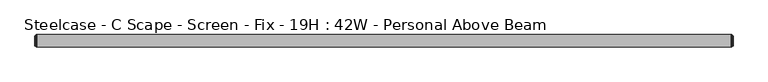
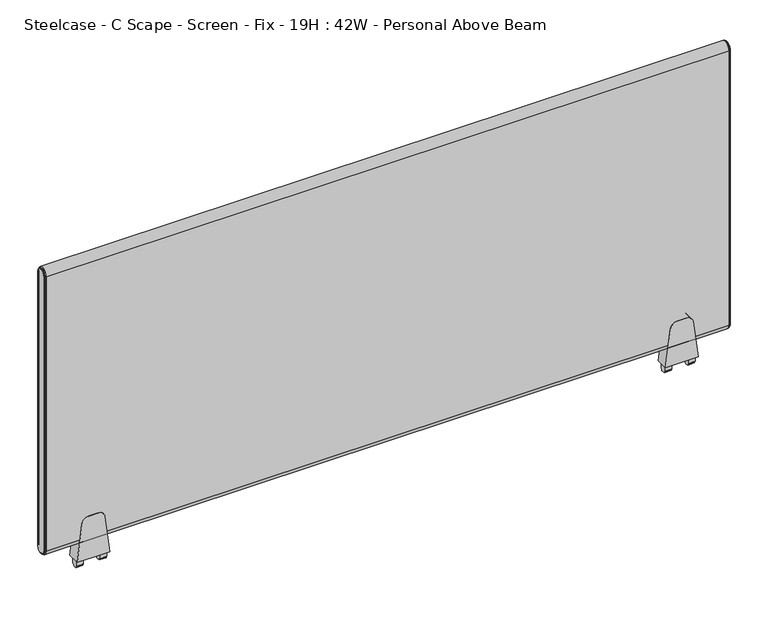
"""IFC4 building model written with IfcOpenShell, lengths in millimetres: furniture geometry, Steelcase - C Scape - Screen - Fix - 19H : 42W - Personal Above Beam."""

from ifc_helpers import new_model, si_unit, point, frame, frame_2d, origin, place, context, project, spatial, polyline, circle_curve, ellipse_curve, trimmed, segment, composite_curve, outline, extrude, source, transform, mapped, element, save
from ifc_brep_helpers import plane_surface, cylinder_surface, revolved_surface, advanced_brep


def steelcase_c_scape_screen_fix_19h_42w_personal_above_beam_1034dbda(model_context):
    return source(origin(), model_context, "Body", "SolidModel", [
        extrude(outline(composite_curve([segment(polyline([(609.511112, 101.4730434), (669.8362421, 94.0661495)]), True, "CONTINUOUS"), segment(trimmed(circle_curve(frame_2d((668.5143718, 83.300233)), 10.8467645), [point((669.8362421, 94.0661495))], [point((679.3611362, 83.300233))], False, "CARTESIAN"), True, "CONTINUOUS"), segment(polyline([(679.3611362, 83.300233), (679.3611362, 76.2001674), (679.3611362, 69.1001018)]), True, "CONTINUOUS"), segment(trimmed(circle_curve(frame_2d((668.5143718, 69.1001018)), 10.8467645), [point((679.3611362, 69.1001018))], [point((669.8362421, 58.3341853))], False, "CARTESIAN"), True, "CONTINUOUS"), segment(polyline([(669.8362421, 58.3341853), (609.511112, 50.9272915), (609.511112, 76.2001674), (609.511112, 101.4730434)]), True, "CONTINUOUS")], self_intersect=False)), frame((0.0, -9.525, 0.0), z_axis=(0.0, 1.0, 0.0), x_axis=(0.0, 0.0, 1.0)), (0.0, 0.0, 1.0), 19.05),
        extrude(outline(polyline([(4.5465975, 609.511112), (4.5465975, 599.6051033), (4.0139265, 598.7186748), (2.9972008, 598.7186748), (2.9972008, 596.4834188), (0.0, 596.392), (-2.9972008, 596.4834188), (-2.9972008, 598.7186748), (-4.0139265, 598.7186748), (-4.5465975, 599.6051033), (-4.5465975, 609.511112), (0.0, 609.511112), (4.5465975, 609.511112)])), frame((88.9267162, 0.0, 0.0), z_axis=(1.0, 0.0, 0.0), x_axis=(0.0, 1.0, 0.0)), (0.0, 0.0, 1.0), 10.7813187),
        extrude(outline(polyline([(4.5465975, 609.511112), (4.5465975, 599.6051033), (4.0139265, 598.7186748), (2.9972008, 598.7186748), (2.9972008, 596.4834188), (0.0, 596.392), (-2.9972008, 596.4834188), (-2.9972008, 598.7186748), (-4.0139265, 598.7186748), (-4.5465975, 599.6051033), (-4.5465975, 609.511112), (0.0, 609.511112), (4.5465975, 609.511112)])), frame((52.6923, 0.0, 0.0), z_axis=(1.0, 0.0, 0.0), x_axis=(0.0, 1.0, 0.0)), (0.0, 0.0, 1.0), 10.7813187),
        extrude(outline(composite_curve([segment(polyline([(609.511112, 1015.1107132), (669.8362421, 1007.7038193)]), True, "CONTINUOUS"), segment(trimmed(circle_curve(frame_2d((668.5143718, 996.9379028)), 10.8467645), [point((669.8362421, 1007.7038193))], [point((679.3611362, 996.9379028))], False, "CARTESIAN"), True, "CONTINUOUS"), segment(polyline([(679.3611362, 996.9379028), (679.3611362, 989.8378372), (679.3611362, 982.7377716)]), True, "CONTINUOUS"), segment(trimmed(circle_curve(frame_2d((668.5143718, 982.7377716)), 10.8467645), [point((679.3611362, 982.7377716))], [point((669.8362421, 971.9718551))], False, "CARTESIAN"), True, "CONTINUOUS"), segment(polyline([(669.8362421, 971.9718551), (609.511112, 964.5649612), (609.511112, 989.8378372), (609.511112, 1015.1107132)]), True, "CONTINUOUS")], self_intersect=False)), frame((0.0, -9.525, 0.0), z_axis=(0.0, 1.0, 0.0), x_axis=(0.0, 0.0, 1.0)), (0.0, 0.0, 1.0), 19.05),
        extrude(outline(polyline([(4.5465975, 609.511112), (4.5465975, 599.6051033), (4.0139265, 598.7186748), (2.9972008, 598.7186748), (2.9972008, 596.4834188), (0.0, 596.392), (-2.9972008, 596.4834188), (-2.9972008, 598.7186748), (-4.0139265, 598.7186748), (-4.5465975, 599.6051033), (-4.5465975, 609.511112), (0.0, 609.511112), (4.5465975, 609.511112)])), frame((1002.564386, 0.0, 0.0), z_axis=(1.0, 0.0, 0.0), x_axis=(0.0, 1.0, 0.0)), (0.0, 0.0, 1.0), 10.7813187),
        extrude(outline(polyline([(4.5465975, 609.511112), (4.5465975, 599.6051033), (4.0139265, 598.7186748), (2.9972008, 598.7186748), (2.9972008, 596.4834188), (0.0, 596.392), (-2.9972008, 596.4834188), (-2.9972008, 598.7186748), (-4.0139265, 598.7186748), (-4.5465975, 599.6051033), (-4.5465975, 609.511112), (0.0, 609.511112), (4.5465975, 609.511112)])), frame((966.3299698, 0.0, 0.0), z_axis=(1.0, 0.0, 0.0), x_axis=(0.0, 1.0, 0.0)), (0.0, 0.0, 1.0), 10.7813187),
        advanced_brep(
        [(1063.2486613, -9.525, 1095.375), (1063.2486613, 9.525, 1095.375), (1063.2486613, 9.525, 644.525), (1063.2486613, -9.525, 644.525), (1066.0426613, 7.4929583, 1095.375), (1066.0426613, -7.4929583, 1095.375), (1066.0426613, -7.4929583, 644.525), (1066.0426613, 7.4929583, 644.525), (1065.5346545, -8.0009651, 1095.375), (1065.5346545, 8.0009651, 1095.375), (1064.2646613, 8.0009651, 1095.375), (1064.2646613, -8.0009651, 1095.375), (1064.2646613, -8.8204932, 1095.375), (1064.2646613, 8.8204932, 1095.375), (1064.2646613, -8.0009651, 644.525), (1065.5346545, -8.0009651, 644.525), (1064.2646613, -8.8204932, 644.525), (1064.2646613, 8.0009651, 644.525), (1065.5346545, 8.0009651, 644.525), (1064.2646613, 8.8204932, 644.525)],
        [
            (0, 1, circle_curve(frame((1063.2486613, 0.0, 1095.375), z_axis=(-1.0, 0.0, 0.0), x_axis=(0.0, 1.0, 0.0)), 9.525)),
            (1, 2),
            (2, 3, circle_curve(frame((1063.2486613, 0.0, 644.525), z_axis=(-1.0, 0.0, 0.0), x_axis=(0.0, -1.0, 0.0)), 9.525)),
            (3, 0),
            (4, 5, circle_curve(frame((1066.0426613, 0.0, 1095.375), z_axis=(1.0, 0.0, 0.0), x_axis=(0.0, 1.0, 0.0)), 7.4929583)),
            (5, 6),
            (6, 7, circle_curve(frame((1066.0426613, 0.0, 644.525), z_axis=(1.0, 0.0, 0.0), x_axis=(0.0, -1.0, 0.0)), 7.4929583)),
            (7, 4),
            (8, 9, circle_curve(frame((1065.5346545, 0.0, 1095.375), z_axis=(-1.0, 0.0, 0.0), x_axis=(0.0, 1.0, 0.0)), 8.0009651)),
            (9, 10),
            (10, 11, circle_curve(frame((1064.2646613, 0.0, 1095.375), z_axis=(1.0, 0.0, 0.0), x_axis=(0.0, 1.0, 0.0)), 8.0009651)),
            (11, 8),
            (8, 5, circle_curve(frame((1065.5346545, -7.4929583, 1095.375), z_axis=(0.0, 0.0, 1.0), x_axis=(0.0, -1.0, 0.0)), 0.5080068)),
            (4, 9, circle_curve(frame((1065.5346545, 7.4929583, 1095.375), z_axis=(0.0, 0.0, 1.0), x_axis=(0.0, 1.0, 0.0)), 0.5080068)),
            (12, 13, circle_curve(frame((1064.2646613, 0.0, 1095.375), z_axis=(-1.0, 0.0, 0.0), x_axis=(0.0, 1.0, 0.0)), 8.8204932)),
            (13, 1, circle_curve(frame((1063.1806211, 8.3420139, 1095.375), z_axis=(0.0, 0.0, 1.0), x_axis=(0.0, 1.0, 0.0)), 1.1849411)),
            (0, 12, circle_curve(frame((1063.1806211, -8.3420139, 1095.375), z_axis=(0.0, 0.0, 1.0), x_axis=(0.0, -1.0, 0.0)), 1.1849411)),
            (11, 14),
            (14, 15),
            (15, 8),
            (15, 6, circle_curve(frame((1065.5346545, -7.4929583, 644.525), z_axis=(0.0, 0.0, 1.0), x_axis=(0.0, -1.0, 0.0)), 0.5080068)),
            (3, 16, circle_curve(frame((1063.1806211, -8.3420139, 644.525), z_axis=(0.0, 0.0, 1.0), x_axis=(0.0, -1.0, 0.0)), 1.1849411)),
            (16, 12),
            (14, 17, circle_curve(frame((1064.2646613, 0.0, 644.525), z_axis=(1.0, 0.0, 0.0), x_axis=(0.0, -1.0, 0.0)), 8.0009651)),
            (17, 18),
            (18, 15, circle_curve(frame((1065.5346545, 0.0, 644.525), z_axis=(-1.0, 0.0, 0.0), x_axis=(0.0, -1.0, 0.0)), 8.0009651)),
            (18, 7, circle_curve(frame((1065.5346545, 7.4929583, 644.525), z_axis=(0.0, 0.0, -1.0), x_axis=(0.0, 1.0, 0.0)), 0.5080068)),
            (2, 19, circle_curve(frame((1063.1806211, 8.3420139, 644.525), z_axis=(0.0, 0.0, -1.0), x_axis=(0.0, 1.0, 0.0)), 1.1849411)),
            (19, 16, circle_curve(frame((1064.2646613, 0.0, 644.525), z_axis=(-1.0, 0.0, 0.0), x_axis=(0.0, -1.0, 0.0)), 8.8204932)),
            (9, 18),
            (17, 10),
            (13, 19),
        ],
        [
            plane_surface(frame((1063.2486613, -6.3509705, 1095.375), z_axis=(-1.0, 0.0, 0.0), x_axis=(0.0, 0.0, 1.0))),
            plane_surface(frame((1066.0426613, -6.3509705, 1095.375), z_axis=(1.0, 0.0, 0.0), x_axis=(0.0, 0.0, -1.0))),
            cylinder_surface(frame((1063.2486613, 0.0, 1095.375), z_axis=(1.0, 0.0, 0.0), x_axis=(0.0, 1.0, 0.0)), 8.0009651),
            revolved_surface(trimmed(ellipse_curve(frame((1065.5346545, 7.4929583, 1095.375), z_axis=(0.0, 0.0, -1.0), x_axis=(0.0, 1.0, 0.0)), 0.5080068, 0.5080068), [point((1065.5346545, 8.0009651, 1095.375))], [point((1066.0426613, 7.4929583, 1095.375))], True, "CARTESIAN"), (1063.2486613, 0.0, 1095.375), (1.0, 0.0, 0.0)),
            revolved_surface(trimmed(ellipse_curve(frame((1063.1806211, 8.3420139, 1095.375), z_axis=(0.0, 0.0, -1.0), x_axis=(0.0, 1.0, 0.0)), 1.1849411, 1.1849411), [point((1063.2486613, 9.525, 1095.375))], [point((1064.2646613, 8.8204932, 1095.375))], True, "CARTESIAN"), (1063.2486613, 0.0, 1095.375), (1.0, 0.0, 0.0)),
            plane_surface(frame((1064.2646613, -8.0009651, 1095.375), z_axis=(0.0, -1.0, 0.0), x_axis=(0.0, 0.0, -1.0))),
            cylinder_surface(frame((1065.5346545, -7.4929583, 1095.375), z_axis=(0.0, 0.0, 1.0), x_axis=(0.0, -1.0, 0.0)), 0.5080068),
            cylinder_surface(frame((1063.1806211, -8.3420139, 1095.375), z_axis=(0.0, 0.0, 1.0), x_axis=(0.0, -1.0, 0.0)), 1.1849411),
            cylinder_surface(frame((1063.2486613, 0.0, 644.525), z_axis=(1.0, 0.0, 0.0), x_axis=(0.0, -1.0, 0.0)), 8.0009651),
            revolved_surface(trimmed(ellipse_curve(frame((1065.5346545, -7.4929583, 644.525), z_axis=(0.0, 0.0, 1.0), x_axis=(0.0, -1.0, 0.0)), 0.5080068, 0.5080068), [point((1065.5346545, -8.0009651, 644.525))], [point((1066.0426613, -7.4929583, 644.525))], True, "CARTESIAN"), (1063.2486613, 0.0, 644.525), (1.0, 0.0, 0.0)),
            revolved_surface(trimmed(ellipse_curve(frame((1063.1806211, -8.3420139, 644.525), z_axis=(0.0, 0.0, 1.0), x_axis=(0.0, -1.0, 0.0)), 1.1849411, 1.1849411), [point((1063.2486613, -9.525, 644.525))], [point((1064.2646613, -8.8204932, 644.525))], True, "CARTESIAN"), (1063.2486613, 0.0, 644.525), (1.0, 0.0, 0.0)),
            plane_surface(frame((1064.2646613, 8.0009651, 644.525), z_axis=(0.0, 1.0, 0.0), x_axis=(0.0, 0.0, 1.0))),
            cylinder_surface(frame((1065.5346545, 7.4929583, 644.525), z_axis=(0.0, 0.0, -1.0), x_axis=(0.0, 1.0, 0.0)), 0.5080068),
            cylinder_surface(frame((1063.1806211, 8.3420139, 644.525), z_axis=(0.0, 0.0, -1.0), x_axis=(0.0, 1.0, 0.0)), 1.1849411),
            plane_surface(frame((1064.2646613, 8.8204932, 644.525), z_axis=(1.0, 0.0, 0.0), x_axis=(0.0, 0.0, 1.0))),
        ],
        [
            (0, [[1, 2, 3, 4]]),
            (1, [[5, 6, 7, 8]]),
            (2, [[9, 10, 11, 12]]),
            (3, [[-9, 13, -5, 14]]),
            (4, [[15, 16, -1, 17]]),
            (5, [[-12, 18, 19, 20]]),
            (6, [[-13, -20, 21, -6]]),
            (7, [[-17, -4, 22, 23]]),
            (8, [[-19, 24, 25, 26]]),
            (9, [[-21, -26, 27, -7]]),
            (10, [[-22, -3, 28, 29]]),
            (11, [[-10, 30, -25, 31]]),
            (12, [[-14, -8, -27, -30]]),
            (13, [[-16, 32, -28, -2]]),
            (14, [[-15, -23, -29, -32], [-11, -31, -24, -18]]),
        ],
    ),
        advanced_brep(
        [(2.7940155, 9.525, 1095.375), (2.7940155, -9.525, 1095.375), (2.7940155, -9.525, 644.525), (2.7940155, 9.525, 644.525), (0.0, -7.4929583, 1095.375), (0.0, 7.4929583, 1095.375), (0.0, 7.4929583, 644.525), (0.0, -7.4929583, 644.525), (1.778, 8.8204932, 1095.375), (1.778, -8.8204932, 1095.375), (0.5080068, -8.0009651, 1095.375), (0.5080068, 8.0009651, 1095.375), (1.778, -8.0009651, 1095.375), (1.778, 8.0009651, 1095.375), (1.778, -8.8204932, 644.525), (0.5080068, -8.0009651, 644.525), (1.778, -8.0009651, 644.525), (1.778, 8.8204932, 644.525), (0.5080068, 8.0009651, 644.525), (1.778, 8.0009651, 644.525)],
        [
            (0, 1, circle_curve(frame((2.7940155, 0.0, 1095.375), z_axis=(1.0, 0.0, 0.0), x_axis=(0.0, 1.0, 0.0)), 9.525)),
            (1, 2),
            (2, 3, circle_curve(frame((2.7940155, 0.0, 644.525), z_axis=(1.0, 0.0, 0.0), x_axis=(0.0, -1.0, 0.0)), 9.525)),
            (3, 0),
            (4, 5, circle_curve(frame((0.0, 0.0, 1095.375), z_axis=(-1.0, 0.0, 0.0), x_axis=(0.0, 1.0, 0.0)), 7.4929583)),
            (5, 6),
            (6, 7, circle_curve(frame((0.0, 0.0, 644.525), z_axis=(-1.0, 0.0, 0.0), x_axis=(0.0, -1.0, 0.0)), 7.4929583)),
            (7, 4),
            (0, 8, circle_curve(frame((2.8620402, 8.3420139, 1095.375), z_axis=(0.0, 0.0, 1.0), x_axis=(0.0, -1.0, 0.0)), 1.1849411)),
            (8, 9, circle_curve(frame((1.778, 0.0, 1095.375), z_axis=(1.0, 0.0, 0.0), x_axis=(0.0, 1.0, 0.0)), 8.8204932)),
            (9, 1, circle_curve(frame((2.8620402, -8.3420139, 1095.375), z_axis=(0.0, 0.0, 1.0), x_axis=(0.0, 1.0, 0.0)), 1.1849411)),
            (10, 11, circle_curve(frame((0.5080068, 0.0, 1095.375), z_axis=(-1.0, 0.0, 0.0), x_axis=(0.0, 1.0, 0.0)), 8.0009651)),
            (11, 5, circle_curve(frame((0.5080068, 7.4929583, 1095.375), z_axis=(0.0, 0.0, 1.0), x_axis=(0.0, -1.0, 0.0)), 0.5080068)),
            (4, 10, circle_curve(frame((0.5080068, -7.4929583, 1095.375), z_axis=(0.0, 0.0, 1.0), x_axis=(0.0, 1.0, 0.0)), 0.5080068)),
            (10, 12),
            (12, 13, circle_curve(frame((1.778, 0.0, 1095.375), z_axis=(-1.0, 0.0, 0.0), x_axis=(0.0, 1.0, 0.0)), 8.0009651)),
            (13, 11),
            (9, 14),
            (14, 2, circle_curve(frame((2.8620402, -8.3420139, 644.525), z_axis=(0.0, 0.0, 1.0), x_axis=(0.0, 1.0, 0.0)), 1.1849411)),
            (7, 15, circle_curve(frame((0.5080068, -7.4929583, 644.525), z_axis=(0.0, 0.0, 1.0), x_axis=(0.0, 1.0, 0.0)), 0.5080068)),
            (15, 10),
            (15, 16),
            (16, 12),
            (14, 17, circle_curve(frame((1.778, 0.0, 644.525), z_axis=(1.0, 0.0, 0.0), x_axis=(0.0, -1.0, 0.0)), 8.8204932)),
            (17, 3, circle_curve(frame((2.8620402, 8.3420139, 644.525), z_axis=(0.0, 0.0, -1.0), x_axis=(0.0, -1.0, 0.0)), 1.1849411)),
            (6, 18, circle_curve(frame((0.5080068, 7.4929583, 644.525), z_axis=(0.0, 0.0, -1.0), x_axis=(0.0, -1.0, 0.0)), 0.5080068)),
            (18, 15, circle_curve(frame((0.5080068, 0.0, 644.525), z_axis=(-1.0, 0.0, 0.0), x_axis=(0.0, -1.0, 0.0)), 8.0009651)),
            (18, 19),
            (19, 16, circle_curve(frame((1.778, 0.0, 644.525), z_axis=(-1.0, 0.0, 0.0), x_axis=(0.0, -1.0, 0.0)), 8.0009651)),
            (8, 17),
            (19, 13),
            (11, 18),
        ],
        [
            plane_surface(frame((2.7940155, -6.3509705, 1095.375), z_axis=(1.0, 0.0, 0.0), x_axis=(0.0, 0.0, -1.0))),
            plane_surface(frame((0.0, -6.3509705, 1095.375), z_axis=(-1.0, 0.0, 0.0), x_axis=(0.0, 0.0, 1.0))),
            revolved_surface(trimmed(ellipse_curve(frame((2.8620402, 8.3420139, 1095.375), z_axis=(0.0, 0.0, -1.0), x_axis=(0.0, -1.0, 0.0)), 1.1849411, 1.1849411), [point((1.778, 8.8204932, 1095.375))], [point((2.794, 9.525, 1095.375))], True, "CARTESIAN"), (2.794, 0.0, 1095.375), (1.0, 0.0, 0.0)),
            revolved_surface(trimmed(ellipse_curve(frame((0.5080068, 7.4929583, 1095.375), z_axis=(0.0, 0.0, -1.0), x_axis=(0.0, -1.0, 0.0)), 0.5080068, 0.5080068), [point((0.0, 7.4929583, 1095.375))], [point((0.5080068, 8.0009651, 1095.375))], True, "CARTESIAN"), (2.794, 0.0, 1095.375), (1.0, 0.0, 0.0)),
            cylinder_surface(frame((2.794, 0.0, 1095.375), z_axis=(1.0, 0.0, 0.0), x_axis=(0.0, 1.0, 0.0)), 8.0009651),
            cylinder_surface(frame((2.8620402, -8.3420139, 1095.375), z_axis=(0.0, 0.0, 1.0), x_axis=(0.0, 1.0, 0.0)), 1.1849411),
            cylinder_surface(frame((0.5080068, -7.4929583, 1095.375), z_axis=(0.0, 0.0, 1.0), x_axis=(0.0, 1.0, 0.0)), 0.5080068),
            plane_surface(frame((0.5080068, -8.0009651, 1095.375), z_axis=(0.0, -1.0, 0.0), x_axis=(0.0, 0.0, -1.0))),
            revolved_surface(trimmed(ellipse_curve(frame((2.8620402, -8.3420139, 644.525), z_axis=(0.0, 0.0, 1.0), x_axis=(0.0, 1.0, 0.0)), 1.1849411, 1.1849411), [point((1.778, -8.8204932, 644.525))], [point((2.794, -9.525, 644.525))], True, "CARTESIAN"), (2.794, 0.0, 644.525), (1.0, 0.0, 0.0)),
            revolved_surface(trimmed(ellipse_curve(frame((0.5080068, -7.4929583, 644.525), z_axis=(0.0, 0.0, 1.0), x_axis=(0.0, 1.0, 0.0)), 0.5080068, 0.5080068), [point((0.0, -7.4929583, 644.525))], [point((0.5080068, -8.0009651, 644.525))], True, "CARTESIAN"), (2.794, 0.0, 644.525), (1.0, 0.0, 0.0)),
            cylinder_surface(frame((2.794, 0.0, 644.525), z_axis=(1.0, 0.0, 0.0), x_axis=(0.0, -1.0, 0.0)), 8.0009651),
            plane_surface(frame((1.778, 8.0009651, 644.525), z_axis=(-1.0, 0.0, 0.0), x_axis=(0.0, 0.0, 1.0))),
            cylinder_surface(frame((2.8620402, 8.3420139, 644.525), z_axis=(0.0, 0.0, -1.0), x_axis=(0.0, -1.0, 0.0)), 1.1849411),
            cylinder_surface(frame((0.5080068, 7.4929583, 644.525), z_axis=(0.0, 0.0, -1.0), x_axis=(0.0, -1.0, 0.0)), 0.5080068),
            plane_surface(frame((0.5080068, 8.0009651, 644.525), z_axis=(0.0, 1.0, 0.0), x_axis=(0.0, 0.0, 1.0))),
        ],
        [
            (0, [[1, 2, 3, 4]]),
            (1, [[5, 6, 7, 8]]),
            (2, [[-1, 9, 10, 11]]),
            (3, [[12, 13, -5, 14]]),
            (4, [[-12, 15, 16, 17]]),
            (5, [[-11, 18, 19, -2]]),
            (6, [[-14, -8, 20, 21]]),
            (7, [[-15, -21, 22, 23]]),
            (8, [[-19, 24, 25, -3]]),
            (9, [[-20, -7, 26, 27]]),
            (10, [[-22, -27, 28, 29]]),
            (11, [[-10, 30, -24, -18], [-16, -23, -29, 31]]),
            (12, [[-9, -4, -25, -30]]),
            (13, [[-13, 32, -26, -6]]),
            (14, [[-17, -31, -28, -32]]),
        ],
    ),
        extrude(outline(composite_curve([segment(trimmed(circle_curve(frame_2d((0.0, 1095.375)), 9.525), [point((-9.525, 1095.375))], [point((9.525, 1095.375))], False, "CARTESIAN"), True, "CONTINUOUS"), segment(polyline([(9.525, 1095.375), (9.525, 644.525)]), True, "CONTINUOUS"), segment(trimmed(circle_curve(frame_2d((0.0, 644.525)), 9.525), [point((9.525, 644.525))], [point((-9.525, 644.525))], False, "CARTESIAN"), True, "CONTINUOUS"), segment(polyline([(-9.525, 644.525), (-9.525, 1095.375)]), True, "CONTINUOUS")], self_intersect=False)), frame((2.794, 0.0, 0.0), z_axis=(1.0, 0.0, 0.0), x_axis=(0.0, 1.0, 0.0)), (0.0, 0.0, 1.0), 1060.4546613),
    ])


if __name__ == "__main__":
    model = new_model("IFC4")
    model_context = context("Model", 3, world=origin())
    ifc_project = project(units=[si_unit("LENGTHUNIT", "METRE", prefix="MILLI")], contexts=[model_context])
    site = spatial("IfcSite", under=ifc_project)
    building = spatial("IfcBuilding", under=site)
    placement = place(None, origin())
    steelcase_c_scape_screen_fix_19h_42w_personal_above_beam_shape = steelcase_c_scape_screen_fix_19h_42w_personal_above_beam_1034dbda(model_context)
    element("IfcFurniture", 1, ObjectType="Steelcase - C Scape - Screen - Fix - 19H : 42W - Personal Above Beam", at=placement, inside=building, context=model_context, shape_type="MappedRepresentation", body=[
        mapped(steelcase_c_scape_screen_fix_19h_42w_personal_above_beam_shape, transform((0.0, 0.0, 0.0), x_axis=(1.0, 0.0, 0.0), y_axis=(0.0, 1.0, 0.0), z_axis=(0.0, 0.0, 1.0))),
    ])
    save(model, "model.ifc")
